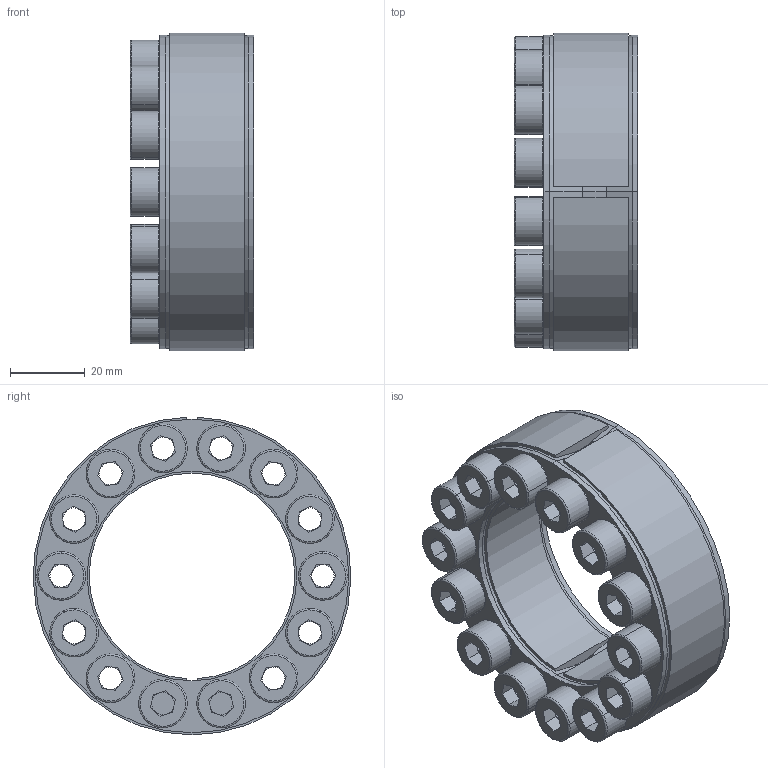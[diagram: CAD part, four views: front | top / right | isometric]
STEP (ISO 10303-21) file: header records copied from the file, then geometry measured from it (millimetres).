
FILE_DESCRIPTION (( 'STEP AP203' ), '1' );
FILE_NAME ('D1-55-85 Assy.STEP', '2017-10-11T04:42:57', ( 'MYCOM' ), ( '' ), 'SwSTEP 2.0', 'SolidWorks 2015', '' );
FILE_SCHEMA (( 'CONFIG_CONTROL_DESIGN' ));
Length unit declared in the file: millimetre
Products named in the file (1): D1-55-85 Assy
Bounding box: 33.14 x 84.99 x 84.97 mm (x, y, z)
Surface area: 39933.6 mm2 (no closed solid volume)
Topology: 0 solids, 24 shells, 352 faces, 918 edges, 576 vertices
Faces by surface type: plane 184, cylinder 103, torus 56, cone 9
Entity records: 10933 total; most frequent: DIRECTION 2063, CARTESIAN_POINT 1883, ORIENTED_EDGE 1652, EDGE_CURVE 918, AXIS2_PLACEMENT_3D 800, VERTEX_POINT 576, LINE 463, VECTOR 463
